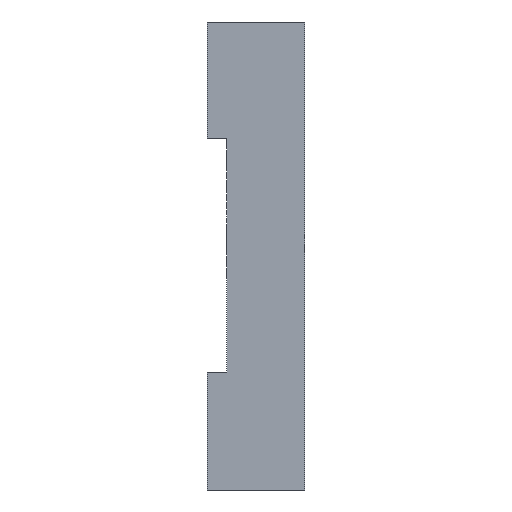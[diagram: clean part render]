
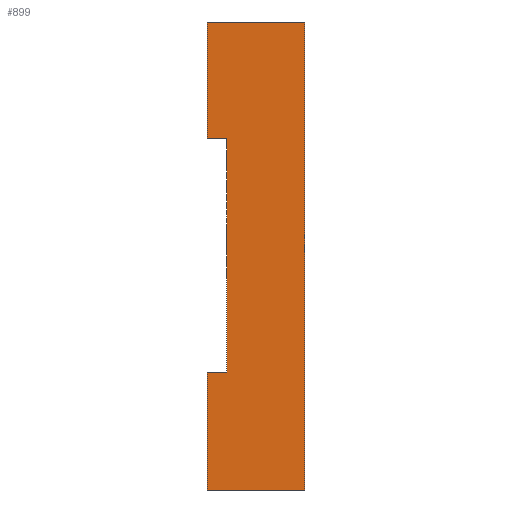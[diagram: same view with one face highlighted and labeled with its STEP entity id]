
A CAD part, left-side view. The second image highlights one B-rep face of the part: STEP entity #899.
In plain terms, the highlighted planar face has unit normal (-1, 0, 0).
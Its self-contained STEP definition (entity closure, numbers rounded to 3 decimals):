
#144 = EDGE_CURVE ( 'NONE', #1441, #1419, #351, .T. ) ;
#145 = EDGE_CURVE ( 'NONE', #1426, #1441, #355, .T. ) ;
#146 = EDGE_CURVE ( 'NONE', #1426, #1452, #350, .T. ) ;
#350 = LINE ( 'NONE', #655, #352 ) ;
#351 = LINE ( 'NONE', #661, #356 ) ;
#352 = VECTOR ( 'NONE', #656, 1000. ) ;
#354 = VECTOR ( 'NONE', #2261, 1000. ) ;
#355 = LINE ( 'NONE', #2268, #354 ) ;
#356 = VECTOR ( 'NONE', #658, 1000. ) ;
#525 = FACE_OUTER_BOUND ( 'NONE', #1400, .T. ) ;
#655 = CARTESIAN_POINT ( 'NONE',  ( -36., 8., -24. ) ) ;
#656 = DIRECTION ( 'NONE',  ( 0., -1., 0. ) ) ;
#658 = DIRECTION ( 'NONE',  ( 0., -1., 0. ) ) ;
#661 = CARTESIAN_POINT ( 'NONE',  ( -36., 10., -12. ) ) ;
#881 = CARTESIAN_POINT ( 'NONE',  ( -36., 8., -24. ) ) ;
#889 = PLANE ( 'NONE',  #2380 ) ;
#890 = DIRECTION ( 'NONE',  ( 1., 0., 0. ) ) ;
#891 = DIRECTION ( 'NONE',  ( 0., 0., -1. ) ) ;
#899 = ADVANCED_FACE ( 'NONE', ( #525 ), #889, .F. ) ;
#1069 = ORIENTED_EDGE ( 'NONE', *, *, #2302, .F. ) ;
#1169 = ORIENTED_EDGE ( 'NONE', *, *, #2418, .F. ) ;
#1173 = ORIENTED_EDGE ( 'NONE', *, *, #2420, .T. ) ;
#1400 = EDGE_LOOP ( 'NONE', ( #1521, #1169, #1536, #1173, #1069, #1485, #1493, #1547 ) ) ;
#1415 = VERTEX_POINT ( 'NONE', #2108 ) ;
#1419 = VERTEX_POINT ( 'NONE', #2112 ) ;
#1424 = VERTEX_POINT ( 'NONE', #2117 ) ;
#1426 = VERTEX_POINT ( 'NONE', #2119 ) ;
#1441 = VERTEX_POINT ( 'NONE', #2134 ) ;
#1452 = VERTEX_POINT ( 'NONE', #2145 ) ;
#1453 = VERTEX_POINT ( 'NONE', #2146 ) ;
#1458 = VERTEX_POINT ( 'NONE', #2151 ) ;
#1485 = ORIENTED_EDGE ( 'NONE', *, *, #144, .F. ) ;
#1493 = ORIENTED_EDGE ( 'NONE', *, *, #145, .F. ) ;
#1521 = ORIENTED_EDGE ( 'NONE', *, *, #2415, .T. ) ;
#1536 = ORIENTED_EDGE ( 'NONE', *, *, #2419, .F. ) ;
#1547 = ORIENTED_EDGE ( 'NONE', *, *, #146, .T. ) ;
#1601 = LINE ( 'NONE', #2223, #1604 ) ;
#1604 = VECTOR ( 'NONE', #2224, 1000. ) ;
#1682 = LINE ( 'NONE', #1890, #1685 ) ;
#1685 = VECTOR ( 'NONE', #1891, 1000. ) ;
#1687 = LINE ( 'NONE', #1892, #1689 ) ;
#1688 = LINE ( 'NONE', #1902, #1691 ) ;
#1689 = VECTOR ( 'NONE', #1893, 1000. ) ;
#1690 = LINE ( 'NONE', #1904, #1693 ) ;
#1691 = VECTOR ( 'NONE', #1903, 1000. ) ;
#1693 = VECTOR ( 'NONE', #1905, 1000. ) ;
#1890 = CARTESIAN_POINT ( 'NONE',  ( -36., 0., -24. ) ) ;
#1891 = DIRECTION ( 'NONE',  ( 0., 0., 1. ) ) ;
#1892 = CARTESIAN_POINT ( 'NONE',  ( -36., 8., 24. ) ) ;
#1893 = DIRECTION ( 'NONE',  ( 0., -1., 0. ) ) ;
#1902 = CARTESIAN_POINT ( 'NONE',  ( -36., 10., 24. ) ) ;
#1903 = DIRECTION ( 'NONE',  ( 0., 0., 1. ) ) ;
#1904 = CARTESIAN_POINT ( 'NONE',  ( -36., 10., 12. ) ) ;
#1905 = DIRECTION ( 'NONE',  ( 0., -1., 0. ) ) ;
#2108 = CARTESIAN_POINT ( 'NONE',  ( -36., 0., 24. ) ) ;
#2112 = CARTESIAN_POINT ( 'NONE',  ( -36., 8., -12. ) ) ;
#2117 = CARTESIAN_POINT ( 'NONE',  ( -36., 10., 12. ) ) ;
#2119 = CARTESIAN_POINT ( 'NONE',  ( -36., 10., -24. ) ) ;
#2134 = CARTESIAN_POINT ( 'NONE',  ( -36., 10., -12. ) ) ;
#2145 = CARTESIAN_POINT ( 'NONE',  ( -36., 0., -24. ) ) ;
#2146 = CARTESIAN_POINT ( 'NONE',  ( -36., 8., 12. ) ) ;
#2151 = CARTESIAN_POINT ( 'NONE',  ( -36., 10., 24. ) ) ;
#2223 = CARTESIAN_POINT ( 'NONE',  ( -36., 8., -24. ) ) ;
#2224 = DIRECTION ( 'NONE',  ( 0., 0., 1. ) ) ;
#2261 = DIRECTION ( 'NONE',  ( 0., 0., 1. ) ) ;
#2268 = CARTESIAN_POINT ( 'NONE',  ( -36., 10., -24. ) ) ;
#2302 = EDGE_CURVE ( 'NONE', #1419, #1453, #1601, .T. ) ;
#2380 = AXIS2_PLACEMENT_3D ( 'NONE', #881, #890, #891 ) ;
#2415 = EDGE_CURVE ( 'NONE', #1452, #1415, #1682, .T. ) ;
#2418 = EDGE_CURVE ( 'NONE', #1458, #1415, #1687, .T. ) ;
#2419 = EDGE_CURVE ( 'NONE', #1424, #1458, #1688, .T. ) ;
#2420 = EDGE_CURVE ( 'NONE', #1424, #1453, #1690, .T. ) ;
